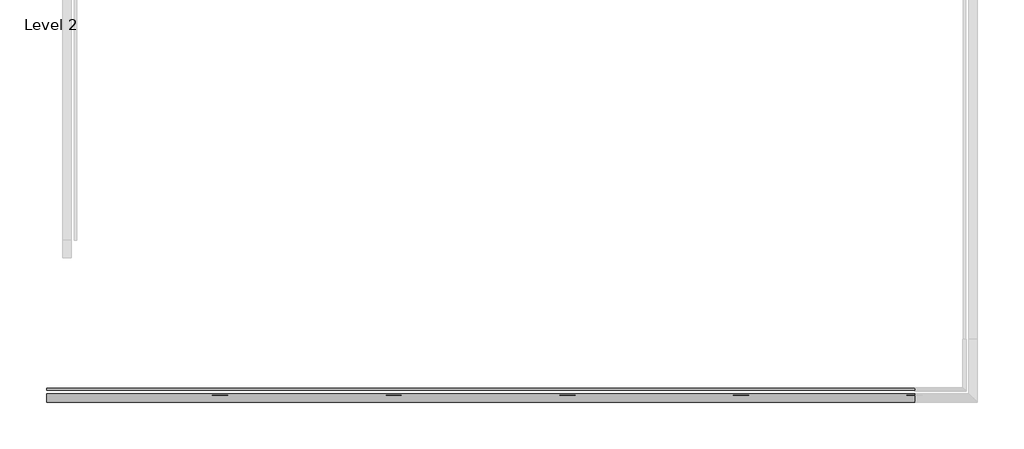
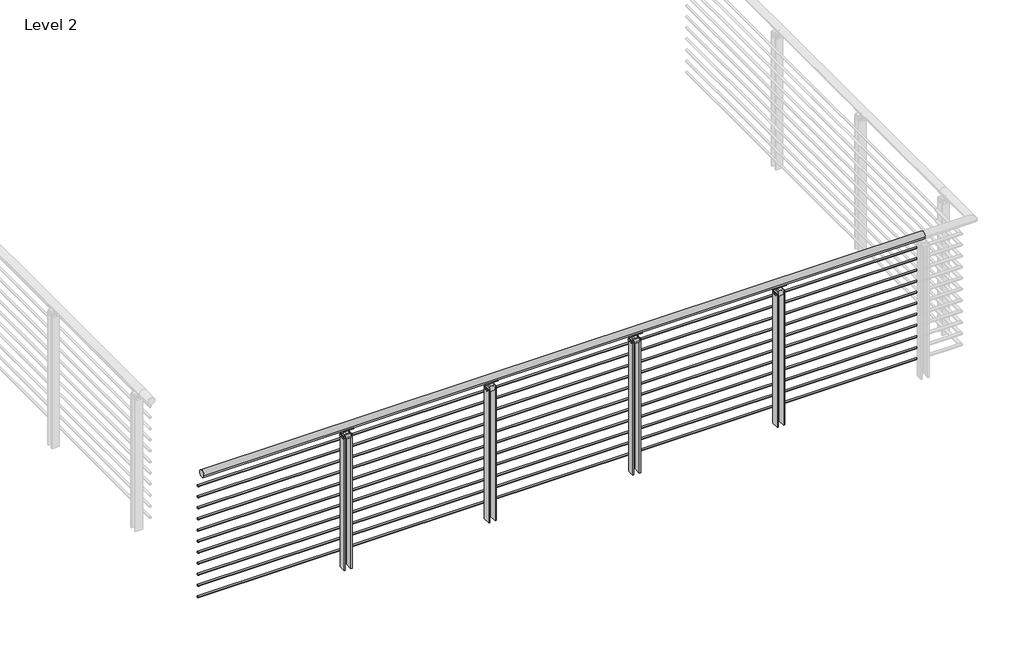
# One storey, part 13 of 31: 1 railing.
"""IFC4 building model written with IfcOpenShell, lengths in millimetres."""

from ifc_helpers import new_model, si_unit, point, frame, frame_2d, origin, place, context, project, spatial, polyline, circle_curve, trimmed, segment, composite_curve, outline, extrude, element, save
from ifc_brep_helpers import plane_surface, cylinder_surface, revolved_surface, advanced_brep

model = new_model("IFC4")

# Units and contexts
model_context = context("Model", 3, world=origin())
ifc_project = project(units=[si_unit("LENGTHUNIT", "METRE", prefix="MILLI")], contexts=[model_context])

# Site, building, storey
site = spatial("IfcSite", under=ifc_project)
building = spatial("IfcBuilding", under=site)
storey = spatial("IfcBuildingStorey", under=building, Name="Level 2", Elevation=3048.0)

# Railing
placement = place(None, origin())
element("IfcRailing", 1, ObjectType="VIVA-BLADE-Multiline-Weld Mount-Straight", at=placement, inside=storey, context=model_context, shape_type="SolidModel", body=[
    extrude(outline(composite_curve([segment(trimmed(circle_curve(frame_2d((-69986.3426165, 4102.1)), 25.4), [point((-70011.7426165, 4102.1))], [point((-69960.9426165, 4102.1))], False, "CARTESIAN"), True, "CONTINUOUS"), segment(trimmed(circle_curve(frame_2d((-69986.3426165, 4102.1)), 25.4), [point((-69960.9426165, 4102.1))], [point((-70011.7426165, 4102.1))], False, "CARTESIAN"), True, "CONTINUOUS")], self_intersect=False)), frame((41035.0879965, 0.0, 0.0), z_axis=(1.0, 0.0, 0.0), x_axis=(0.0, 1.0, 0.0)), (0.0, 0.0, 1.0), 5080.0),
    extrude(outline(composite_curve([segment(trimmed(circle_curve(frame_2d((-69935.5426165, 3981.45)), 6.35), [point((-69929.1926165, 3981.45))], [point((-69941.8926165, 3981.45))], False, "CARTESIAN"), True, "CONTINUOUS"), segment(trimmed(circle_curve(frame_2d((-69935.5426165, 3981.45)), 6.35), [point((-69941.8926165, 3981.45))], [point((-69929.1926165, 3981.45))], False, "CARTESIAN"), True, "CONTINUOUS")], self_intersect=False)), frame((41035.0879965, 0.0, 0.0), z_axis=(1.0, 0.0, 0.0), x_axis=(0.0, 1.0, 0.0)), (0.0, 0.0, 1.0), 5080.0),
    extrude(outline(composite_curve([segment(trimmed(circle_curve(frame_2d((-69935.5426165, 3898.9)), 6.35), [point((-69929.1926165, 3898.9))], [point((-69941.8926165, 3898.9))], False, "CARTESIAN"), True, "CONTINUOUS"), segment(trimmed(circle_curve(frame_2d((-69935.5426165, 3898.9)), 6.35), [point((-69941.8926165, 3898.9))], [point((-69929.1926165, 3898.9))], False, "CARTESIAN"), True, "CONTINUOUS")], self_intersect=False)), frame((41035.0879965, 0.0, 0.0), z_axis=(1.0, 0.0, 0.0), x_axis=(0.0, 1.0, 0.0)), (0.0, 0.0, 1.0), 5080.0),
    extrude(outline(composite_curve([segment(trimmed(circle_curve(frame_2d((-69935.5426165, 3816.35)), 6.35), [point((-69929.1926165, 3816.35))], [point((-69941.8926165, 3816.35))], False, "CARTESIAN"), True, "CONTINUOUS"), segment(trimmed(circle_curve(frame_2d((-69935.5426165, 3816.35)), 6.35), [point((-69941.8926165, 3816.35))], [point((-69929.1926165, 3816.35))], False, "CARTESIAN"), True, "CONTINUOUS")], self_intersect=False)), frame((41035.0879965, 0.0, 0.0), z_axis=(1.0, 0.0, 0.0), x_axis=(0.0, 1.0, 0.0)), (0.0, 0.0, 1.0), 5080.0),
    extrude(outline(composite_curve([segment(trimmed(circle_curve(frame_2d((-69935.5426165, 3733.8)), 6.35), [point((-69929.1926165, 3733.8))], [point((-69941.8926165, 3733.8))], False, "CARTESIAN"), True, "CONTINUOUS"), segment(trimmed(circle_curve(frame_2d((-69935.5426165, 3733.8)), 6.35), [point((-69941.8926165, 3733.8))], [point((-69929.1926165, 3733.8))], False, "CARTESIAN"), True, "CONTINUOUS")], self_intersect=False)), frame((41035.0879965, 0.0, 0.0), z_axis=(1.0, 0.0, 0.0), x_axis=(0.0, 1.0, 0.0)), (0.0, 0.0, 1.0), 5080.0),
    extrude(outline(composite_curve([segment(trimmed(circle_curve(frame_2d((-69935.5426165, 3651.25)), 6.35), [point((-69929.1926165, 3651.25))], [point((-69941.8926165, 3651.25))], False, "CARTESIAN"), True, "CONTINUOUS"), segment(trimmed(circle_curve(frame_2d((-69935.5426165, 3651.25)), 6.35), [point((-69941.8926165, 3651.25))], [point((-69929.1926165, 3651.25))], False, "CARTESIAN"), True, "CONTINUOUS")], self_intersect=False)), frame((41035.0879965, 0.0, 0.0), z_axis=(1.0, 0.0, 0.0), x_axis=(0.0, 1.0, 0.0)), (0.0, 0.0, 1.0), 5080.0),
    extrude(outline(composite_curve([segment(trimmed(circle_curve(frame_2d((-69935.5426165, 3568.7)), 6.35), [point((-69929.1926165, 3568.7))], [point((-69941.8926165, 3568.7))], False, "CARTESIAN"), True, "CONTINUOUS"), segment(trimmed(circle_curve(frame_2d((-69935.5426165, 3568.7)), 6.35), [point((-69941.8926165, 3568.7))], [point((-69929.1926165, 3568.7))], False, "CARTESIAN"), True, "CONTINUOUS")], self_intersect=False)), frame((41035.0879965, 0.0, 0.0), z_axis=(1.0, 0.0, 0.0), x_axis=(0.0, 1.0, 0.0)), (0.0, 0.0, 1.0), 5080.0),
    extrude(outline(composite_curve([segment(trimmed(circle_curve(frame_2d((-69935.5426165, 3486.15)), 6.35), [point((-69929.1926165, 3486.15))], [point((-69941.8926165, 3486.15))], False, "CARTESIAN"), True, "CONTINUOUS"), segment(trimmed(circle_curve(frame_2d((-69935.5426165, 3486.15)), 6.35), [point((-69941.8926165, 3486.15))], [point((-69929.1926165, 3486.15))], False, "CARTESIAN"), True, "CONTINUOUS")], self_intersect=False)), frame((41035.0879965, 0.0, 0.0), z_axis=(1.0, 0.0, 0.0), x_axis=(0.0, 1.0, 0.0)), (0.0, 0.0, 1.0), 5080.0),
    extrude(outline(composite_curve([segment(trimmed(circle_curve(frame_2d((-69935.5426165, 3403.6)), 6.35), [point((-69929.1926165, 3403.6))], [point((-69941.8926165, 3403.6))], False, "CARTESIAN"), True, "CONTINUOUS"), segment(trimmed(circle_curve(frame_2d((-69935.5426165, 3403.6)), 6.35), [point((-69941.8926165, 3403.6))], [point((-69929.1926165, 3403.6))], False, "CARTESIAN"), True, "CONTINUOUS")], self_intersect=False)), frame((41035.0879965, 0.0, 0.0), z_axis=(1.0, 0.0, 0.0), x_axis=(0.0, 1.0, 0.0)), (0.0, 0.0, 1.0), 5080.0),
    extrude(outline(composite_curve([segment(trimmed(circle_curve(frame_2d((-69935.5426165, 3321.05)), 6.35), [point((-69929.1926165, 3321.05))], [point((-69941.8926165, 3321.05))], False, "CARTESIAN"), True, "CONTINUOUS"), segment(trimmed(circle_curve(frame_2d((-69935.5426165, 3321.05)), 6.35), [point((-69941.8926165, 3321.05))], [point((-69929.1926165, 3321.05))], False, "CARTESIAN"), True, "CONTINUOUS")], self_intersect=False)), frame((41035.0879965, 0.0, 0.0), z_axis=(1.0, 0.0, 0.0), x_axis=(0.0, 1.0, 0.0)), (0.0, 0.0, 1.0), 5080.0),
    extrude(outline(composite_curve([segment(trimmed(circle_curve(frame_2d((-69935.5426165, 3238.5)), 6.35), [point((-69929.1926165, 3238.5))], [point((-69941.8926165, 3238.5))], False, "CARTESIAN"), True, "CONTINUOUS"), segment(trimmed(circle_curve(frame_2d((-69935.5426165, 3238.5)), 6.35), [point((-69941.8926165, 3238.5))], [point((-69929.1926165, 3238.5))], False, "CARTESIAN"), True, "CONTINUOUS")], self_intersect=False)), frame((41035.0879965, 0.0, 0.0), z_axis=(1.0, 0.0, 0.0), x_axis=(0.0, 1.0, 0.0)), (0.0, 0.0, 1.0), 5080.0),
    extrude(outline(composite_curve([segment(trimmed(circle_curve(frame_2d((-69935.5426165, 3155.95)), 6.35), [point((-69929.1926165, 3155.95))], [point((-69941.8926165, 3155.95))], False, "CARTESIAN"), True, "CONTINUOUS"), segment(trimmed(circle_curve(frame_2d((-69935.5426165, 3155.95)), 6.35), [point((-69941.8926165, 3155.95))], [point((-69929.1926165, 3155.95))], False, "CARTESIAN"), True, "CONTINUOUS")], self_intersect=False)), frame((41035.0879965, 0.0, 0.0), z_axis=(1.0, 0.0, 0.0), x_axis=(0.0, 1.0, 0.0)), (0.0, 0.0, 1.0), 5080.0),
    advanced_brep(
    [(45144.3253965, -69973.5824929, 4080.0967655), (45144.3253965, -69998.4545574, 4079.9535285), (45144.3253965, -70001.2634877, 4075.1267745), (45144.3253965, -69969.7465955, 4075.707533), (45053.8505965, -69973.5824929, 4080.0967655), (45053.8505965, -69969.7465955, 4075.707533), (45053.8505965, -70001.3772811, 4075.1893964), (45053.8505965, -69998.5415296, 4080.0018447)],
    [
        (0, 1, circle_curve(frame((45144.3253965, -69986.1462958, 4102.2115898), z_axis=(-1.0, 0.0, 0.0), x_axis=(0.0, 1.0, 0.0)), 25.4345159)),
        (1, 2, circle_curve(frame((45144.3253965, -69999.7861827, 4077.4993599), z_axis=(1.0, 0.0, 0.0), x_axis=(0.0, 1.0, 0.0)), 2.7949225)),
        (2, 3, circle_curve(frame((45144.3253965, -69986.0128327, 4102.9742164), z_axis=(1.0, 0.0, 0.0), x_axis=(0.0, 1.0, 0.0)), 31.75)),
        (3, 0, circle_curve(frame((45144.3253965, -69972.0349352, 4077.5784521), z_axis=(1.0, 0.0, 0.0), x_axis=(0.0, 1.0, 0.0)), 2.9558141)),
        (4, 5, circle_curve(frame((45053.8505965, -69972.0349352, 4077.5784521), z_axis=(-1.0, 0.0, 0.0), x_axis=(0.0, 1.0, 0.0)), 2.9558141)),
        (5, 6, circle_curve(frame((45053.8505965, -69986.0128327, 4102.9742164), z_axis=(-1.0, 0.0, 0.0), x_axis=(0.0, 1.0, 0.0)), 31.75)),
        (6, 7, circle_curve(frame((45053.8505965, -69999.7861827, 4077.4993599), z_axis=(-1.0, 0.0, 0.0), x_axis=(0.0, 1.0, 0.0)), 2.7949225)),
        (7, 4, circle_curve(frame((45053.8505965, -69986.1462958, 4102.2115898), z_axis=(1.0, 0.0, 0.0), x_axis=(0.0, 1.0, 0.0)), 25.4345159)),
        (0, 4),
        (7, 1),
        (6, 2),
        (5, 3),
    ],
    [
        plane_surface(frame((45144.3253965, -69960.7117799, 4102.2115898), z_axis=(1.0, 0.0, 0.0), x_axis=(0.0, 0.0, -1.0))),
        plane_surface(frame((45053.8505965, -69960.7117799, 4102.2115898), z_axis=(-1.0, 0.0, 0.0), x_axis=(0.0, 0.0, 1.0))),
        revolved_surface(polyline([(45053.8505965, -69960.71177990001, 4102.2115898), (45144.3253965, -69960.71177990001, 4102.2115898)]), (45053.8505965, -69986.1462958, 4102.2115898), (-1.0, 0.0, 0.0)),
        cylinder_surface(frame((45053.8505965, -69999.7861827, 4077.4993599), z_axis=(1.0, 0.0, 0.0), x_axis=(0.0, 1.0, 0.0)), 2.7949225),
        cylinder_surface(frame((45053.8505965, -69986.0128327, 4102.9742164), z_axis=(1.0, 0.0, 0.0), x_axis=(0.0, 1.0, 0.0)), 31.75),
        cylinder_surface(frame((45053.8505965, -69972.0349352, 4077.5784521), z_axis=(1.0, 0.0, 0.0), x_axis=(0.0, 1.0, 0.0)), 2.9558141),
    ],
    [
        (0, [[1, 2, 3, 4]]),
        (1, [[5, 6, 7, 8]]),
        (2, [[-1, 9, -8, 10]]),
        (3, [[-2, -10, -7, 11]]),
        (4, [[-3, -11, -6, 12]]),
        (5, [[-4, -12, -5, -9]]),
    ],
),
    extrude(outline(composite_curve([segment(trimmed(circle_curve(frame_2d((4062.4125, 45126.1559114)), 14.3679149), [point((4062.4125, 45111.7879965))], [point((4076.7804149, 45126.1559114))], True, "CARTESIAN"), True, "CONTINUOUS"), segment(polyline([(4076.7804149, 45126.1559114), (4076.7804149, 45072.0200816)]), True, "CONTINUOUS"), segment(trimmed(circle_curve(frame_2d((4062.4125, 45072.0200816)), 14.3679149), [point((4076.7804149, 45072.0200816))], [point((4062.4125, 45086.3879965))], True, "CARTESIAN"), True, "CONTINUOUS"), segment(polyline([(4062.4125, 45086.3879965), (4062.4125, 45111.7879965)]), True, "CONTINUOUS")], self_intersect=False)), frame((0.0, -69988.8826165, 0.0), z_axis=(0.0, 1.0, 0.0), x_axis=(0.0, 0.0, 1.0)), (0.0, 0.0, 1.0), 5.08),
    extrude(outline(polyline([(45072.0131608, -69960.9428199), (45080.0379965, -69960.9428199), (45080.0379965, -70011.7451445), (45072.0131608, -70011.7451445), (45072.0131608, -69960.9428199)])), frame((0.0, 0.0, 3048.0), z_axis=(0.0, 0.0, 1.0), x_axis=(1.0, 0.0, 0.0)), (0.0, 0.0, 1.0), 996.95),
    extrude(outline(composite_curve([segment(trimmed(circle_curve(frame_2d((-69999.0450935, 4034.0416929)), 8.89), [point((-70007.9350935, 4034.0416929))], [point((-69990.1550935, 4034.0416929))], False, "CARTESIAN"), True, "CONTINUOUS"), segment(trimmed(circle_curve(frame_2d((-69999.0450935, 4034.0416929)), 8.89), [point((-69990.1550935, 4034.0416929))], [point((-70007.9350935, 4034.0416929))], False, "CARTESIAN"), True, "CONTINUOUS")], self_intersect=False)), frame((45067.3379965, 0.0, 0.0), z_axis=(1.0, 0.0, 0.0), x_axis=(0.0, 1.0, 0.0)), (0.0, 0.0, 1.0), 63.4880631),
    extrude(outline(composite_curve([segment(trimmed(circle_curve(frame_2d((-69973.6451955, 4034.0416929)), 8.89), [point((-69982.5351955, 4034.0416929))], [point((-69964.7551955, 4034.0416929))], False, "CARTESIAN"), True, "CONTINUOUS"), segment(trimmed(circle_curve(frame_2d((-69973.6451955, 4034.0416929)), 8.89), [point((-69964.7551955, 4034.0416929))], [point((-69982.5351955, 4034.0416929))], False, "CARTESIAN"), True, "CONTINUOUS")], self_intersect=False)), frame((45067.3379965, 0.0, 0.0), z_axis=(1.0, 0.0, 0.0), x_axis=(0.0, 1.0, 0.0)), (0.0, 0.0, 1.0), 63.4880631),
    extrude(outline(polyline([(4022.7123, 45080.0379965), (4022.7123, 45118.1379965), (4056.0625, 45118.1379965), (4062.4125, 45111.7879965), (4062.4125, 45086.3879965), (4056.0625, 45080.0379965), (4022.7123, 45080.0379965)])), frame((0.0, -70011.7451445, 0.0), z_axis=(0.0, 1.0, 0.0), x_axis=(0.0, 0.0, 1.0)), (0.0, 0.0, 1.0), 50.8025279),
    extrude(outline(polyline([(45118.1379585, -69960.9428199), (45126.1389585, -69960.9428199), (45126.1389585, -70011.7451445), (45118.1379585, -70011.7451445), (45118.1379585, -69960.9428199)])), frame((0.0, 0.0, 3048.0), z_axis=(0.0, 0.0, 1.0), x_axis=(1.0, 0.0, 0.0)), (0.0, 0.0, 1.0), 996.95),
    advanced_brep(
    [(44128.3253965, -69973.5824929, 4080.0967655), (44128.3253965, -69998.4545574, 4079.9535285), (44128.3253965, -70001.2634877, 4075.1267745), (44128.3253965, -69969.7465955, 4075.707533), (44037.8505965, -69973.5824929, 4080.0967655), (44037.8505965, -69969.7465955, 4075.707533), (44037.8505965, -70001.3772811, 4075.1893964), (44037.8505965, -69998.5415296, 4080.0018447)],
    [
        (0, 1, circle_curve(frame((44128.3253965, -69986.1462958, 4102.2115898), z_axis=(-1.0, 0.0, 0.0), x_axis=(0.0, 1.0, 0.0)), 25.4345159)),
        (1, 2, circle_curve(frame((44128.3253965, -69999.7861827, 4077.4993599), z_axis=(1.0, 0.0, 0.0), x_axis=(0.0, 1.0, 0.0)), 2.7949225)),
        (2, 3, circle_curve(frame((44128.3253965, -69986.0128327, 4102.9742164), z_axis=(1.0, 0.0, 0.0), x_axis=(0.0, 1.0, 0.0)), 31.75)),
        (3, 0, circle_curve(frame((44128.3253965, -69972.0349352, 4077.5784521), z_axis=(1.0, 0.0, 0.0), x_axis=(0.0, 1.0, 0.0)), 2.9558141)),
        (4, 5, circle_curve(frame((44037.8505965, -69972.0349352, 4077.5784521), z_axis=(-1.0, 0.0, 0.0), x_axis=(0.0, 1.0, 0.0)), 2.9558141)),
        (5, 6, circle_curve(frame((44037.8505965, -69986.0128327, 4102.9742164), z_axis=(-1.0, 0.0, 0.0), x_axis=(0.0, 1.0, 0.0)), 31.75)),
        (6, 7, circle_curve(frame((44037.8505965, -69999.7861827, 4077.4993599), z_axis=(-1.0, 0.0, 0.0), x_axis=(0.0, 1.0, 0.0)), 2.7949225)),
        (7, 4, circle_curve(frame((44037.8505965, -69986.1462958, 4102.2115898), z_axis=(1.0, 0.0, 0.0), x_axis=(0.0, 1.0, 0.0)), 25.4345159)),
        (0, 4),
        (7, 1),
        (6, 2),
        (5, 3),
    ],
    [
        plane_surface(frame((44128.3253965, -69960.7117799, 4102.2115898), z_axis=(1.0, 0.0, 0.0), x_axis=(0.0, 0.0, -1.0))),
        plane_surface(frame((44037.8505965, -69960.7117799, 4102.2115898), z_axis=(-1.0, 0.0, 0.0), x_axis=(0.0, 0.0, 1.0))),
        revolved_surface(polyline([(44037.8505965, -69960.71177990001, 4102.2115898), (44128.3253965, -69960.71177990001, 4102.2115898)]), (44037.8505965, -69986.1462958, 4102.2115898), (-1.0, 0.0, 0.0)),
        cylinder_surface(frame((44037.8505965, -69999.7861827, 4077.4993599), z_axis=(1.0, 0.0, 0.0), x_axis=(0.0, 1.0, 0.0)), 2.7949225),
        cylinder_surface(frame((44037.8505965, -69986.0128327, 4102.9742164), z_axis=(1.0, 0.0, 0.0), x_axis=(0.0, 1.0, 0.0)), 31.75),
        cylinder_surface(frame((44037.8505965, -69972.0349352, 4077.5784521), z_axis=(1.0, 0.0, 0.0), x_axis=(0.0, 1.0, 0.0)), 2.9558141),
    ],
    [
        (0, [[1, 2, 3, 4]]),
        (1, [[5, 6, 7, 8]]),
        (2, [[-1, 9, -8, 10]]),
        (3, [[-2, -10, -7, 11]]),
        (4, [[-3, -11, -6, 12]]),
        (5, [[-4, -12, -5, -9]]),
    ],
),
    extrude(outline(composite_curve([segment(trimmed(circle_curve(frame_2d((4062.4125, 44110.1559114)), 14.3679149), [point((4062.4125, 44095.7879965))], [point((4076.7804149, 44110.1559114))], True, "CARTESIAN"), True, "CONTINUOUS"), segment(polyline([(4076.7804149, 44110.1559114), (4076.7804149, 44056.0200816)]), True, "CONTINUOUS"), segment(trimmed(circle_curve(frame_2d((4062.4125, 44056.0200816)), 14.3679149), [point((4076.7804149, 44056.0200816))], [point((4062.4125, 44070.3879965))], True, "CARTESIAN"), True, "CONTINUOUS"), segment(polyline([(4062.4125, 44070.3879965), (4062.4125, 44095.7879965)]), True, "CONTINUOUS")], self_intersect=False)), frame((0.0, -69988.8826165, 0.0), z_axis=(0.0, 1.0, 0.0), x_axis=(0.0, 0.0, 1.0)), (0.0, 0.0, 1.0), 5.08),
    extrude(outline(polyline([(44056.0131608, -69960.9428199), (44064.0379965, -69960.9428199), (44064.0379965, -70011.7451445), (44056.0131608, -70011.7451445), (44056.0131608, -69960.9428199)])), frame((0.0, 0.0, 3048.0), z_axis=(0.0, 0.0, 1.0), x_axis=(1.0, 0.0, 0.0)), (0.0, 0.0, 1.0), 996.95),
    extrude(outline(composite_curve([segment(trimmed(circle_curve(frame_2d((-69999.0450935, 4034.0416929)), 8.89), [point((-70007.9350935, 4034.0416929))], [point((-69990.1550935, 4034.0416929))], False, "CARTESIAN"), True, "CONTINUOUS"), segment(trimmed(circle_curve(frame_2d((-69999.0450935, 4034.0416929)), 8.89), [point((-69990.1550935, 4034.0416929))], [point((-70007.9350935, 4034.0416929))], False, "CARTESIAN"), True, "CONTINUOUS")], self_intersect=False)), frame((44051.3379965, 0.0, 0.0), z_axis=(1.0, 0.0, 0.0), x_axis=(0.0, 1.0, 0.0)), (0.0, 0.0, 1.0), 63.4880631),
    extrude(outline(composite_curve([segment(trimmed(circle_curve(frame_2d((-69973.6451955, 4034.0416929)), 8.89), [point((-69982.5351955, 4034.0416929))], [point((-69964.7551955, 4034.0416929))], False, "CARTESIAN"), True, "CONTINUOUS"), segment(trimmed(circle_curve(frame_2d((-69973.6451955, 4034.0416929)), 8.89), [point((-69964.7551955, 4034.0416929))], [point((-69982.5351955, 4034.0416929))], False, "CARTESIAN"), True, "CONTINUOUS")], self_intersect=False)), frame((44051.3379965, 0.0, 0.0), z_axis=(1.0, 0.0, 0.0), x_axis=(0.0, 1.0, 0.0)), (0.0, 0.0, 1.0), 63.4880631),
    extrude(outline(polyline([(4022.7123, 44064.0379965), (4022.7123, 44102.1379965), (4056.0625, 44102.1379965), (4062.4125, 44095.7879965), (4062.4125, 44070.3879965), (4056.0625, 44064.0379965), (4022.7123, 44064.0379965)])), frame((0.0, -70011.7451445, 0.0), z_axis=(0.0, 1.0, 0.0), x_axis=(0.0, 0.0, 1.0)), (0.0, 0.0, 1.0), 50.8025279),
    extrude(outline(polyline([(44102.1379585, -69960.9428199), (44110.1389585, -69960.9428199), (44110.1389585, -70011.7451445), (44102.1379585, -70011.7451445), (44102.1379585, -69960.9428199)])), frame((0.0, 0.0, 3048.0), z_axis=(0.0, 0.0, 1.0), x_axis=(1.0, 0.0, 0.0)), (0.0, 0.0, 1.0), 996.95),
    advanced_brep(
    [(43112.3253965, -69973.5824929, 4080.0967655), (43112.3253965, -69998.4545574, 4079.9535285), (43112.3253965, -70001.2634877, 4075.1267745), (43112.3253965, -69969.7465955, 4075.707533), (43021.8505965, -69973.5824929, 4080.0967655), (43021.8505965, -69969.7465955, 4075.707533), (43021.8505965, -70001.3772811, 4075.1893964), (43021.8505965, -69998.5415296, 4080.0018447)],
    [
        (0, 1, circle_curve(frame((43112.3253965, -69986.1462958, 4102.2115898), z_axis=(-1.0, 0.0, 0.0), x_axis=(0.0, 1.0, 0.0)), 25.4345159)),
        (1, 2, circle_curve(frame((43112.3253965, -69999.7861827, 4077.4993599), z_axis=(1.0, 0.0, 0.0), x_axis=(0.0, 1.0, 0.0)), 2.7949225)),
        (2, 3, circle_curve(frame((43112.3253965, -69986.0128327, 4102.9742164), z_axis=(1.0, 0.0, 0.0), x_axis=(0.0, 1.0, 0.0)), 31.75)),
        (3, 0, circle_curve(frame((43112.3253965, -69972.0349352, 4077.5784521), z_axis=(1.0, 0.0, 0.0), x_axis=(0.0, 1.0, 0.0)), 2.9558141)),
        (4, 5, circle_curve(frame((43021.8505965, -69972.0349352, 4077.5784521), z_axis=(-1.0, 0.0, 0.0), x_axis=(0.0, 1.0, 0.0)), 2.9558141)),
        (5, 6, circle_curve(frame((43021.8505965, -69986.0128327, 4102.9742164), z_axis=(-1.0, 0.0, 0.0), x_axis=(0.0, 1.0, 0.0)), 31.75)),
        (6, 7, circle_curve(frame((43021.8505965, -69999.7861827, 4077.4993599), z_axis=(-1.0, 0.0, 0.0), x_axis=(0.0, 1.0, 0.0)), 2.7949225)),
        (7, 4, circle_curve(frame((43021.8505965, -69986.1462958, 4102.2115898), z_axis=(1.0, 0.0, 0.0), x_axis=(0.0, 1.0, 0.0)), 25.4345159)),
        (0, 4),
        (7, 1),
        (6, 2),
        (5, 3),
    ],
    [
        plane_surface(frame((43112.3253965, -69960.7117799, 4102.2115898), z_axis=(1.0, 0.0, 0.0), x_axis=(0.0, 0.0, -1.0))),
        plane_surface(frame((43021.8505965, -69960.7117799, 4102.2115898), z_axis=(-1.0, 0.0, 0.0), x_axis=(0.0, 0.0, 1.0))),
        revolved_surface(polyline([(43021.8505965, -69960.71177990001, 4102.2115898), (43112.3253965, -69960.71177990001, 4102.2115898)]), (43021.8505965, -69986.1462958, 4102.2115898), (-1.0, 0.0, 0.0)),
        cylinder_surface(frame((43021.8505965, -69999.7861827, 4077.4993599), z_axis=(1.0, 0.0, 0.0), x_axis=(0.0, 1.0, 0.0)), 2.7949225),
        cylinder_surface(frame((43021.8505965, -69986.0128327, 4102.9742164), z_axis=(1.0, 0.0, 0.0), x_axis=(0.0, 1.0, 0.0)), 31.75),
        cylinder_surface(frame((43021.8505965, -69972.0349352, 4077.5784521), z_axis=(1.0, 0.0, 0.0), x_axis=(0.0, 1.0, 0.0)), 2.9558141),
    ],
    [
        (0, [[1, 2, 3, 4]]),
        (1, [[5, 6, 7, 8]]),
        (2, [[-1, 9, -8, 10]]),
        (3, [[-2, -10, -7, 11]]),
        (4, [[-3, -11, -6, 12]]),
        (5, [[-4, -12, -5, -9]]),
    ],
),
    extrude(outline(composite_curve([segment(trimmed(circle_curve(frame_2d((4062.4125, 43094.1559114)), 14.3679149), [point((4062.4125, 43079.7879965))], [point((4076.7804149, 43094.1559114))], True, "CARTESIAN"), True, "CONTINUOUS"), segment(polyline([(4076.7804149, 43094.1559114), (4076.7804149, 43040.0200816)]), True, "CONTINUOUS"), segment(trimmed(circle_curve(frame_2d((4062.4125, 43040.0200816)), 14.3679149), [point((4076.7804149, 43040.0200816))], [point((4062.4125, 43054.3879965))], True, "CARTESIAN"), True, "CONTINUOUS"), segment(polyline([(4062.4125, 43054.3879965), (4062.4125, 43079.7879965)]), True, "CONTINUOUS")], self_intersect=False)), frame((0.0, -69988.8826165, 0.0), z_axis=(0.0, 1.0, 0.0), x_axis=(0.0, 0.0, 1.0)), (0.0, 0.0, 1.0), 5.08),
    extrude(outline(polyline([(43040.0131608, -69960.9428199), (43048.0379965, -69960.9428199), (43048.0379965, -70011.7451445), (43040.0131608, -70011.7451445), (43040.0131608, -69960.9428199)])), frame((0.0, 0.0, 3048.0), z_axis=(0.0, 0.0, 1.0), x_axis=(1.0, 0.0, 0.0)), (0.0, 0.0, 1.0), 996.95),
    extrude(outline(composite_curve([segment(trimmed(circle_curve(frame_2d((-69999.0450935, 4034.0416929)), 8.89), [point((-70007.9350935, 4034.0416929))], [point((-69990.1550935, 4034.0416929))], False, "CARTESIAN"), True, "CONTINUOUS"), segment(trimmed(circle_curve(frame_2d((-69999.0450935, 4034.0416929)), 8.89), [point((-69990.1550935, 4034.0416929))], [point((-70007.9350935, 4034.0416929))], False, "CARTESIAN"), True, "CONTINUOUS")], self_intersect=False)), frame((43035.3379965, 0.0, 0.0), z_axis=(1.0, 0.0, 0.0), x_axis=(0.0, 1.0, 0.0)), (0.0, 0.0, 1.0), 63.4880631),
    extrude(outline(composite_curve([segment(trimmed(circle_curve(frame_2d((-69973.6451955, 4034.0416929)), 8.89), [point((-69982.5351955, 4034.0416929))], [point((-69964.7551955, 4034.0416929))], False, "CARTESIAN"), True, "CONTINUOUS"), segment(trimmed(circle_curve(frame_2d((-69973.6451955, 4034.0416929)), 8.89), [point((-69964.7551955, 4034.0416929))], [point((-69982.5351955, 4034.0416929))], False, "CARTESIAN"), True, "CONTINUOUS")], self_intersect=False)), frame((43035.3379965, 0.0, 0.0), z_axis=(1.0, 0.0, 0.0), x_axis=(0.0, 1.0, 0.0)), (0.0, 0.0, 1.0), 63.4880631),
    extrude(outline(polyline([(4022.7123, 43048.0379965), (4022.7123, 43086.1379965), (4056.0625, 43086.1379965), (4062.4125, 43079.7879965), (4062.4125, 43054.3879965), (4056.0625, 43048.0379965), (4022.7123, 43048.0379965)])), frame((0.0, -70011.7451445, 0.0), z_axis=(0.0, 1.0, 0.0), x_axis=(0.0, 0.0, 1.0)), (0.0, 0.0, 1.0), 50.8025279),
    extrude(outline(polyline([(43086.1379585, -69960.9428199), (43094.1389585, -69960.9428199), (43094.1389585, -70011.7451445), (43086.1379585, -70011.7451445), (43086.1379585, -69960.9428199)])), frame((0.0, 0.0, 3048.0), z_axis=(0.0, 0.0, 1.0), x_axis=(1.0, 0.0, 0.0)), (0.0, 0.0, 1.0), 996.95),
    advanced_brep(
    [(42096.3253965, -69973.5824929, 4080.0967655), (42096.3253965, -69998.4545574, 4079.9535285), (42096.3253965, -70001.2634877, 4075.1267745), (42096.3253965, -69969.7465955, 4075.707533), (42005.8505965, -69973.5824929, 4080.0967655), (42005.8505965, -69969.7465955, 4075.707533), (42005.8505965, -70001.3772811, 4075.1893964), (42005.8505965, -69998.5415296, 4080.0018447)],
    [
        (0, 1, circle_curve(frame((42096.3253965, -69986.1462958, 4102.2115898), z_axis=(-1.0, 0.0, 0.0), x_axis=(0.0, 1.0, 0.0)), 25.4345159)),
        (1, 2, circle_curve(frame((42096.3253965, -69999.7861827, 4077.4993599), z_axis=(1.0, 0.0, 0.0), x_axis=(0.0, 1.0, 0.0)), 2.7949225)),
        (2, 3, circle_curve(frame((42096.3253965, -69986.0128327, 4102.9742164), z_axis=(1.0, 0.0, 0.0), x_axis=(0.0, 1.0, 0.0)), 31.75)),
        (3, 0, circle_curve(frame((42096.3253965, -69972.0349352, 4077.5784521), z_axis=(1.0, 0.0, 0.0), x_axis=(0.0, 1.0, 0.0)), 2.9558141)),
        (4, 5, circle_curve(frame((42005.8505965, -69972.0349352, 4077.5784521), z_axis=(-1.0, 0.0, 0.0), x_axis=(0.0, 1.0, 0.0)), 2.9558141)),
        (5, 6, circle_curve(frame((42005.8505965, -69986.0128327, 4102.9742164), z_axis=(-1.0, 0.0, 0.0), x_axis=(0.0, 1.0, 0.0)), 31.75)),
        (6, 7, circle_curve(frame((42005.8505965, -69999.7861827, 4077.4993599), z_axis=(-1.0, 0.0, 0.0), x_axis=(0.0, 1.0, 0.0)), 2.7949225)),
        (7, 4, circle_curve(frame((42005.8505965, -69986.1462958, 4102.2115898), z_axis=(1.0, 0.0, 0.0), x_axis=(0.0, 1.0, 0.0)), 25.4345159)),
        (0, 4),
        (7, 1),
        (6, 2),
        (5, 3),
    ],
    [
        plane_surface(frame((42096.3253965, -69960.7117799, 4102.2115898), z_axis=(1.0, 0.0, 0.0), x_axis=(0.0, 0.0, -1.0))),
        plane_surface(frame((42005.8505965, -69960.7117799, 4102.2115898), z_axis=(-1.0, 0.0, 0.0), x_axis=(0.0, 0.0, 1.0))),
        revolved_surface(polyline([(42005.8505965, -69960.71177990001, 4102.2115898), (42096.3253965, -69960.71177990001, 4102.2115898)]), (42005.8505965, -69986.1462958, 4102.2115898), (-1.0, 0.0, 0.0)),
        cylinder_surface(frame((42005.8505965, -69999.7861827, 4077.4993599), z_axis=(1.0, 0.0, 0.0), x_axis=(0.0, 1.0, 0.0)), 2.7949225),
        cylinder_surface(frame((42005.8505965, -69986.0128327, 4102.9742164), z_axis=(1.0, 0.0, 0.0), x_axis=(0.0, 1.0, 0.0)), 31.75),
        cylinder_surface(frame((42005.8505965, -69972.0349352, 4077.5784521), z_axis=(1.0, 0.0, 0.0), x_axis=(0.0, 1.0, 0.0)), 2.9558141),
    ],
    [
        (0, [[1, 2, 3, 4]]),
        (1, [[5, 6, 7, 8]]),
        (2, [[-1, 9, -8, 10]]),
        (3, [[-2, -10, -7, 11]]),
        (4, [[-3, -11, -6, 12]]),
        (5, [[-4, -12, -5, -9]]),
    ],
),
    extrude(outline(composite_curve([segment(trimmed(circle_curve(frame_2d((4062.4125, 42078.1559114)), 14.3679149), [point((4062.4125, 42063.7879965))], [point((4076.7804149, 42078.1559114))], True, "CARTESIAN"), True, "CONTINUOUS"), segment(polyline([(4076.7804149, 42078.1559114), (4076.7804149, 42024.0200816)]), True, "CONTINUOUS"), segment(trimmed(circle_curve(frame_2d((4062.4125, 42024.0200816)), 14.3679149), [point((4076.7804149, 42024.0200816))], [point((4062.4125, 42038.3879965))], True, "CARTESIAN"), True, "CONTINUOUS"), segment(polyline([(4062.4125, 42038.3879965), (4062.4125, 42063.7879965)]), True, "CONTINUOUS")], self_intersect=False)), frame((0.0, -69988.8826165, 0.0), z_axis=(0.0, 1.0, 0.0), x_axis=(0.0, 0.0, 1.0)), (0.0, 0.0, 1.0), 5.08),
    extrude(outline(polyline([(42024.0131608, -69960.9428199), (42032.0379965, -69960.9428199), (42032.0379965, -70011.7451445), (42024.0131608, -70011.7451445), (42024.0131608, -69960.9428199)])), frame((0.0, 0.0, 3048.0), z_axis=(0.0, 0.0, 1.0), x_axis=(1.0, 0.0, 0.0)), (0.0, 0.0, 1.0), 996.95),
    extrude(outline(composite_curve([segment(trimmed(circle_curve(frame_2d((-69999.0450935, 4034.0416929)), 8.89), [point((-70007.9350935, 4034.0416929))], [point((-69990.1550935, 4034.0416929))], False, "CARTESIAN"), True, "CONTINUOUS"), segment(trimmed(circle_curve(frame_2d((-69999.0450935, 4034.0416929)), 8.89), [point((-69990.1550935, 4034.0416929))], [point((-70007.9350935, 4034.0416929))], False, "CARTESIAN"), True, "CONTINUOUS")], self_intersect=False)), frame((42019.3379965, 0.0, 0.0), z_axis=(1.0, 0.0, 0.0), x_axis=(0.0, 1.0, 0.0)), (0.0, 0.0, 1.0), 63.4880631),
    extrude(outline(composite_curve([segment(trimmed(circle_curve(frame_2d((-69973.6451955, 4034.0416929)), 8.89), [point((-69982.5351955, 4034.0416929))], [point((-69964.7551955, 4034.0416929))], False, "CARTESIAN"), True, "CONTINUOUS"), segment(trimmed(circle_curve(frame_2d((-69973.6451955, 4034.0416929)), 8.89), [point((-69964.7551955, 4034.0416929))], [point((-69982.5351955, 4034.0416929))], False, "CARTESIAN"), True, "CONTINUOUS")], self_intersect=False)), frame((42019.3379965, 0.0, 0.0), z_axis=(1.0, 0.0, 0.0), x_axis=(0.0, 1.0, 0.0)), (0.0, 0.0, 1.0), 63.4880631),
    extrude(outline(polyline([(4022.7123, 42032.0379965), (4022.7123, 42070.1379965), (4056.0625, 42070.1379965), (4062.4125, 42063.7879965), (4062.4125, 42038.3879965), (4056.0625, 42032.0379965), (4022.7123, 42032.0379965)])), frame((0.0, -70011.7451445, 0.0), z_axis=(0.0, 1.0, 0.0), x_axis=(0.0, 0.0, 1.0)), (0.0, 0.0, 1.0), 50.8025279),
    extrude(outline(polyline([(42070.1379585, -69960.9428199), (42078.1389585, -69960.9428199), (42078.1389585, -70011.7451445), (42070.1379585, -70011.7451445), (42070.1379585, -69960.9428199)])), frame((0.0, 0.0, 3048.0), z_axis=(0.0, 0.0, 1.0), x_axis=(1.0, 0.0, 0.0)), (0.0, 0.0, 1.0), 996.95),
])

save(model, "model.ifc")
